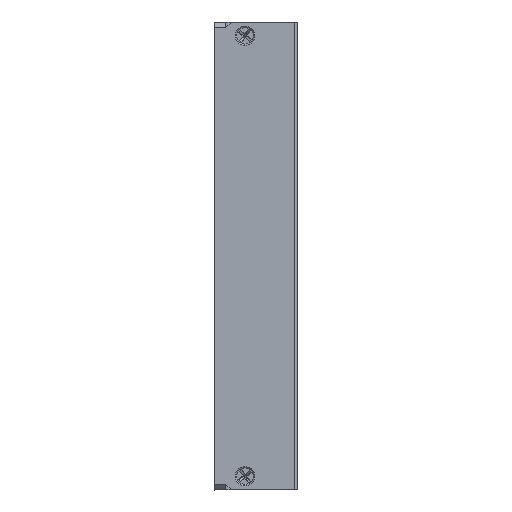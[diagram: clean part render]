
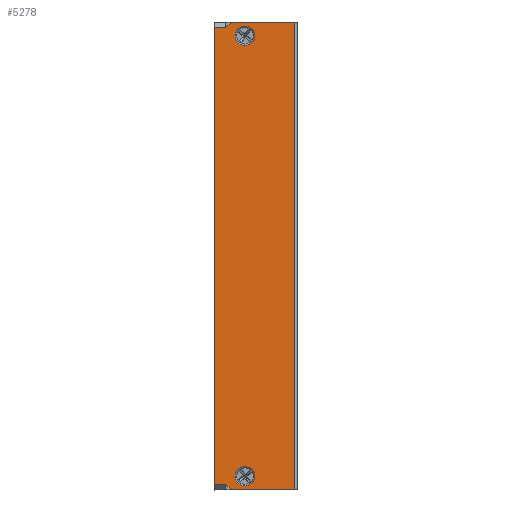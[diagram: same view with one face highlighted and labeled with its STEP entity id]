
A CAD part, left-side view. The second image highlights one B-rep face of the part: STEP entity #5278.
In plain terms, the highlighted planar face has unit normal (-1, 0, 0).
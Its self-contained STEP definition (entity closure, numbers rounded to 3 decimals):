
#159 = CARTESIAN_POINT ( 'NONE',  ( -151.611, 33.395, 102.849 ) ) ;
#160 = DIRECTION ( 'NONE',  ( -1., 0., 0. ) ) ;
#161 = DIRECTION ( 'NONE',  ( 0., 0., 1. ) ) ;
#546 = EDGE_CURVE ( 'NONE', #3946, #3927, #2455, .T. ) ;
#623 = DIRECTION ( 'NONE',  ( 0., 0.707, 0.707 ) ) ;
#634 = CARTESIAN_POINT ( 'NONE',  ( -151.611, 31.395, 105.349 ) ) ;
#636 = DIRECTION ( 'NONE',  ( 0., 1., 0. ) ) ;
#662 = LINE ( 'NONE', #663, #6464 ) ;
#663 = CARTESIAN_POINT ( 'NONE',  ( -151.611, 31.395, 20.349 ) ) ;
#664 = DIRECTION ( 'NONE',  ( 0., -1., 0. ) ) ;
#698 = LINE ( 'NONE', #699, #6482 ) ;
#699 = CARTESIAN_POINT ( 'NONE',  ( -151.611, 38.895, 62.849 ) ) ;
#710 = DIRECTION ( 'NONE',  ( 0., 0., -1. ) ) ;
#756 = LINE ( 'NONE', #797, #6506 ) ;
#797 = CARTESIAN_POINT ( 'NONE',  ( -151.611, 36.895, 104.349 ) ) ;
#798 = DIRECTION ( 'NONE',  ( 0., -0.707, 0.707 ) ) ;
#903 = LINE ( 'NONE', #904, #6552 ) ;
#904 = CARTESIAN_POINT ( 'NONE',  ( -151.611, 31.645, 21.349 ) ) ;
#905 = DIRECTION ( 'NONE',  ( 0., 1., 0. ) ) ;
#933 = LINE ( 'NONE', #934, #6563 ) ;
#934 = CARTESIAN_POINT ( 'NONE',  ( -151.611, 31.645, 104.349 ) ) ;
#935 = DIRECTION ( 'NONE',  ( 0., -1., 0. ) ) ;
#1729 = FACE_BOUND ( 'NONE', #2551, .T. ) ;
#1744 = FACE_BOUND ( 'NONE', #2536, .T. ) ;
#1747 = FACE_OUTER_BOUND ( 'NONE', #2533, .T. ) ;
#1748 = PLANE ( 'NONE',  #1875 ) ;
#1756 = CARTESIAN_POINT ( 'NONE',  ( -151.611, 24.395, 105.349 ) ) ;
#1757 = DIRECTION ( 'NONE',  ( 1., 0., 0. ) ) ;
#1758 = DIRECTION ( 'NONE',  ( 0., 0., -1. ) ) ;
#1875 = AXIS2_PLACEMENT_3D ( 'NONE', #1756, #1757, #1758 ) ;
#2396 = CIRCLE ( 'NONE', #2423, 1.75 ) ;
#2423 = AXIS2_PLACEMENT_3D ( 'NONE', #159, #160, #161 ) ;
#2435 = AXIS2_PLACEMENT_3D ( 'NONE', #3741, #3768, #3744 ) ;
#2455 = CIRCLE ( 'NONE', #2435, 1.75 ) ;
#2533 = EDGE_LOOP ( 'NONE', ( #4929, #4876, #4781, #4750, #4790, #5114, #4892, #5090 ) ) ;
#2536 = EDGE_LOOP ( 'NONE', ( #4855, #4791 ) ) ;
#2551 = EDGE_LOOP ( 'NONE', ( #4866, #4792 ) ) ;
#2647 = VERTEX_POINT ( 'NONE', #3308 ) ;
#2654 = VERTEX_POINT ( 'NONE', #3288 ) ;
#2660 = VERTEX_POINT ( 'NONE', #3341 ) ;
#2668 = VERTEX_POINT ( 'NONE', #3350 ) ;
#2671 = VERTEX_POINT ( 'NONE', #3353 ) ;
#2721 = VERTEX_POINT ( 'NONE', #3428 ) ;
#2722 = VERTEX_POINT ( 'NONE', #3427 ) ;
#2730 = VERTEX_POINT ( 'NONE', #3419 ) ;
#3288 = CARTESIAN_POINT ( 'NONE',  ( -151.611, 38.895, 21.349 ) ) ;
#3292 = CARTESIAN_POINT ( 'NONE',  ( -151.611, 33.395, 101.099 ) ) ;
#3306 = CARTESIAN_POINT ( 'NONE',  ( -151.611, 33.395, 104.599 ) ) ;
#3308 = CARTESIAN_POINT ( 'NONE',  ( -151.611, 35.895, 105.349 ) ) ;
#3321 = CARTESIAN_POINT ( 'NONE',  ( -151.611, 33.395, 21.099 ) ) ;
#3331 = CARTESIAN_POINT ( 'NONE',  ( -151.611, 33.395, 24.599 ) ) ;
#3341 = CARTESIAN_POINT ( 'NONE',  ( -151.611, 38.895, 104.349 ) ) ;
#3350 = CARTESIAN_POINT ( 'NONE',  ( -151.611, 35.895, 20.349 ) ) ;
#3353 = CARTESIAN_POINT ( 'NONE',  ( -151.611, 24.395, 20.349 ) ) ;
#3419 = CARTESIAN_POINT ( 'NONE',  ( -151.611, 36.895, 21.349 ) ) ;
#3427 = CARTESIAN_POINT ( 'NONE',  ( -151.611, 24.395, 105.349 ) ) ;
#3428 = CARTESIAN_POINT ( 'NONE',  ( -151.611, 36.895, 104.349 ) ) ;
#3741 = CARTESIAN_POINT ( 'NONE',  ( -151.611, 33.395, 22.849 ) ) ;
#3744 = DIRECTION ( 'NONE',  ( 0., 0., 1. ) ) ;
#3768 = DIRECTION ( 'NONE',  ( -1., 0., 0. ) ) ;
#3927 = VERTEX_POINT ( 'NONE', #3331 ) ;
#3939 = VERTEX_POINT ( 'NONE', #3306 ) ;
#3942 = VERTEX_POINT ( 'NONE', #3292 ) ;
#3946 = VERTEX_POINT ( 'NONE', #3321 ) ;
#4522 = CARTESIAN_POINT ( 'NONE',  ( -151.611, 33.395, 102.849 ) ) ;
#4523 = DIRECTION ( 'NONE',  ( -1., 0., 0. ) ) ;
#4524 = DIRECTION ( 'NONE',  ( 0., 0., 1. ) ) ;
#4547 = CARTESIAN_POINT ( 'NONE',  ( -151.611, 33.395, 22.849 ) ) ;
#4548 = DIRECTION ( 'NONE',  ( -1., 0., 0. ) ) ;
#4549 = DIRECTION ( 'NONE',  ( 0., 0., 1. ) ) ;
#4566 = CARTESIAN_POINT ( 'NONE',  ( -151.611, 24.395, 62.849 ) ) ;
#4571 = LINE ( 'NONE', #4566, #6403 ) ;
#4576 = DIRECTION ( 'NONE',  ( 0., 0., -1. ) ) ;
#4667 = CARTESIAN_POINT ( 'NONE',  ( -151.611, 35.895, 20.349 ) ) ;
#4669 = LINE ( 'NONE', #634, #6451 ) ;
#4671 = LINE ( 'NONE', #4667, #6447 ) ;
#4709 = EDGE_CURVE ( 'NONE', #3942, #3939, #2396, .T. ) ;
#4750 = ORIENTED_EDGE ( 'NONE', *, *, #5677, .T. ) ;
#4781 = ORIENTED_EDGE ( 'NONE', *, *, #5752, .F. ) ;
#4790 = ORIENTED_EDGE ( 'NONE', *, *, #5742, .F. ) ;
#4791 = ORIENTED_EDGE ( 'NONE', *, *, #4709, .F. ) ;
#4792 = ORIENTED_EDGE ( 'NONE', *, *, #546, .F. ) ;
#4855 = ORIENTED_EDGE ( 'NONE', *, *, #5597, .F. ) ;
#4866 = ORIENTED_EDGE ( 'NONE', *, *, #5606, .F. ) ;
#4876 = ORIENTED_EDGE ( 'NONE', *, *, #5707, .F. ) ;
#4892 = ORIENTED_EDGE ( 'NONE', *, *, #5662, .T. ) ;
#4929 = ORIENTED_EDGE ( 'NONE', *, *, #5652, .T. ) ;
#5090 = ORIENTED_EDGE ( 'NONE', *, *, #5615, .F. ) ;
#5114 = ORIENTED_EDGE ( 'NONE', *, *, #5648, .F. ) ;
#5278 = ADVANCED_FACE ( 'NONE', ( #1744, #1729, #1747 ), #1748, .F. ) ;
#5597 = EDGE_CURVE ( 'NONE', #3939, #3942, #6385, .T. ) ;
#5606 = EDGE_CURVE ( 'NONE', #3927, #3946, #6395, .T. ) ;
#5615 = EDGE_CURVE ( 'NONE', #2722, #2671, #4571, .T. ) ;
#5648 = EDGE_CURVE ( 'NONE', #2668, #2730, #4671, .T. ) ;
#5652 = EDGE_CURVE ( 'NONE', #2722, #2647, #4669, .T. ) ;
#5662 = EDGE_CURVE ( 'NONE', #2668, #2671, #662, .T. ) ;
#5677 = EDGE_CURVE ( 'NONE', #2660, #2654, #698, .T. ) ;
#5707 = EDGE_CURVE ( 'NONE', #2721, #2647, #756, .T. ) ;
#5742 = EDGE_CURVE ( 'NONE', #2730, #2654, #903, .T. ) ;
#5752 = EDGE_CURVE ( 'NONE', #2660, #2721, #933, .T. ) ;
#6385 = CIRCLE ( 'NONE', #6387, 1.75 ) ;
#6387 = AXIS2_PLACEMENT_3D ( 'NONE', #4522, #4523, #4524 ) ;
#6395 = CIRCLE ( 'NONE', #6397, 1.75 ) ;
#6397 = AXIS2_PLACEMENT_3D ( 'NONE', #4547, #4548, #4549 ) ;
#6403 = VECTOR ( 'NONE', #4576, 1000. ) ;
#6447 = VECTOR ( 'NONE', #623, 1000. ) ;
#6451 = VECTOR ( 'NONE', #636, 1000. ) ;
#6464 = VECTOR ( 'NONE', #664, 1000. ) ;
#6482 = VECTOR ( 'NONE', #710, 1000. ) ;
#6506 = VECTOR ( 'NONE', #798, 1000. ) ;
#6552 = VECTOR ( 'NONE', #905, 1000. ) ;
#6563 = VECTOR ( 'NONE', #935, 1000. ) ;
